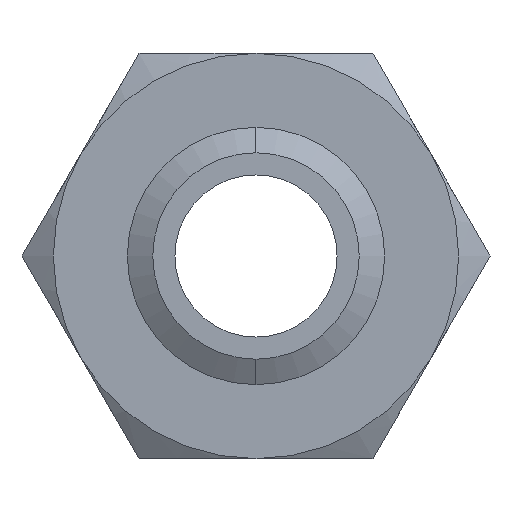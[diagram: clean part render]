
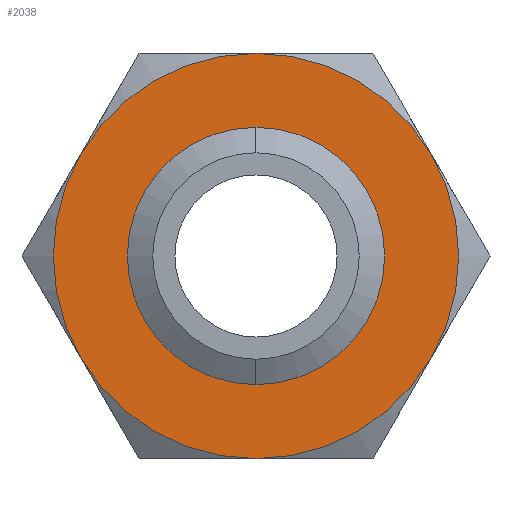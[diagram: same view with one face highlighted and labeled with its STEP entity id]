
A CAD part, front view. The second image highlights one B-rep face of the part: STEP entity #2038.
In plain terms, the highlighted planar face has unit normal (0, -1, 0).
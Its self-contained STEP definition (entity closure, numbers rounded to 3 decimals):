
#2 = EDGE_CURVE ( 'NONE', #2039, #2040, #361, .T. ) ;
#6 = EDGE_CURVE ( 'NONE', #2035, #2039, #344, .T. ) ;
#9 = ORIENTED_EDGE ( 'NONE', *, *, #2, .F. ) ;
#16 = ORIENTED_EDGE ( 'NONE', *, *, #32, .F. ) ;
#32 = EDGE_CURVE ( 'NONE', #1794, #2035, #363, .T. ) ;
#341 = DIRECTION ( 'NONE',  ( 0., 0., 1. ) ) ;
#342 = DIRECTION ( 'NONE',  ( 0., 1., 0. ) ) ;
#343 = AXIS2_PLACEMENT_3D ( 'NONE', #348, #342, #341 ) ;
#344 = CIRCLE ( 'NONE', #343, 25. ) ;
#348 = CARTESIAN_POINT ( 'NONE',  ( 0., 0., 0. ) ) ;
#357 = DIRECTION ( 'NONE',  ( 0., 0., 1. ) ) ;
#358 = DIRECTION ( 'NONE',  ( 0., 1., 0. ) ) ;
#359 = CARTESIAN_POINT ( 'NONE',  ( 0., 0., 0. ) ) ;
#360 = AXIS2_PLACEMENT_3D ( 'NONE', #359, #358, #357 ) ;
#361 = CIRCLE ( 'NONE', #360, 25. ) ;
#362 = CARTESIAN_POINT ( 'NONE',  ( 0., 0., 0. ) ) ;
#363 = CIRCLE ( 'NONE', #417, 25. ) ;
#415 = DIRECTION ( 'NONE',  ( 0., 0., 1. ) ) ;
#416 = DIRECTION ( 'NONE',  ( 0., 1., 0. ) ) ;
#417 = AXIS2_PLACEMENT_3D ( 'NONE', #362, #416, #415 ) ;
#1158 = DIRECTION ( 'NONE',  ( 0., 0., -1. ) ) ;
#1159 = DIRECTION ( 'NONE',  ( 0., -1., 0. ) ) ;
#1160 = CARTESIAN_POINT ( 'NONE',  ( 0., 0., 0. ) ) ;
#1161 = AXIS2_PLACEMENT_3D ( 'NONE', #1160, #1159, #1158 ) ;
#1166 = CIRCLE ( 'NONE', #1161, 12.731 ) ;
#1179 = CARTESIAN_POINT ( 'NONE',  ( 0., 0., -12.731 ) ) ;
#1181 = CARTESIAN_POINT ( 'NONE',  ( 0., 0., 12.731 ) ) ;
#1187 = DIRECTION ( 'NONE',  ( 0., 0., 1. ) ) ;
#1188 = DIRECTION ( 'NONE',  ( 0., 1., 0. ) ) ;
#1189 = CARTESIAN_POINT ( 'NONE',  ( 0., 0., 0. ) ) ;
#1190 = AXIS2_PLACEMENT_3D ( 'NONE', #1189, #1188, #1187 ) ;
#1195 = CIRCLE ( 'NONE', #1190, 25. ) ;
#1231 = CARTESIAN_POINT ( 'NONE',  ( 0., 0., -25. ) ) ;
#1232 = CARTESIAN_POINT ( 'NONE',  ( 21.651, 0., -12.5 ) ) ;
#1233 = DIRECTION ( 'NONE',  ( 0., 0., 1. ) ) ;
#1234 = DIRECTION ( 'NONE',  ( 0., 1., 0. ) ) ;
#1235 = CARTESIAN_POINT ( 'NONE',  ( 0., 0., 0. ) ) ;
#1236 = AXIS2_PLACEMENT_3D ( 'NONE', #1235, #1234, #1233 ) ;
#1237 = CIRCLE ( 'NONE', #1236, 25. ) ;
#1243 = CARTESIAN_POINT ( 'NONE',  ( -21.651, 0., -12.5 ) ) ;
#1349 = DIRECTION ( 'NONE',  ( 0., 0., -1. ) ) ;
#1350 = DIRECTION ( 'NONE',  ( 0., -1., 0. ) ) ;
#1351 = CARTESIAN_POINT ( 'NONE',  ( 0., 0., 0. ) ) ;
#1352 = AXIS2_PLACEMENT_3D ( 'NONE', #1351, #1350, #1349 ) ;
#1353 = CIRCLE ( 'NONE', #1352, 12.731 ) ;
#1401 = DIRECTION ( 'NONE',  ( 0., 0., 1. ) ) ;
#1402 = DIRECTION ( 'NONE',  ( 0., 1., 0. ) ) ;
#1403 = CARTESIAN_POINT ( 'NONE',  ( 0., 0., 0. ) ) ;
#1404 = AXIS2_PLACEMENT_3D ( 'NONE', #1403, #1402, #1401 ) ;
#1405 = CIRCLE ( 'NONE', #1404, 25. ) ;
#1626 = CARTESIAN_POINT ( 'NONE',  ( 21.651, 0., 12.5 ) ) ;
#1627 = DIRECTION ( 'NONE',  ( 0., 0., 1. ) ) ;
#1628 = DIRECTION ( 'NONE',  ( 0., 1., 0. ) ) ;
#1629 = CARTESIAN_POINT ( 'NONE',  ( 14.434, 0., -25. ) ) ;
#1630 = CARTESIAN_POINT ( 'NONE',  ( 0., 0., 25. ) ) ;
#1631 = AXIS2_PLACEMENT_3D ( 'NONE', #1629, #1628, #1627 ) ;
#1632 = PLANE ( 'NONE',  #1631 ) ;
#1633 = FACE_BOUND ( 'NONE', #1791, .T. ) ;
#1634 = FACE_OUTER_BOUND ( 'NONE', #2032, .T. ) ;
#1640 = CARTESIAN_POINT ( 'NONE',  ( -21.651, 0., 12.5 ) ) ;
#1758 = VERTEX_POINT ( 'NONE', #1181 ) ;
#1763 = VERTEX_POINT ( 'NONE', #1179 ) ;
#1768 = EDGE_CURVE ( 'NONE', #1763, #1758, #1166, .T. ) ;
#1787 = EDGE_CURVE ( 'NONE', #2040, #1800, #1195, .T. ) ;
#1789 = ORIENTED_EDGE ( 'NONE', *, *, #1787, .F. ) ;
#1791 = EDGE_LOOP ( 'NONE', ( #2034, #1831 ) ) ;
#1794 = VERTEX_POINT ( 'NONE', #1243 ) ;
#1795 = ORIENTED_EDGE ( 'NONE', *, *, #1883, .F. ) ;
#1799 = EDGE_CURVE ( 'NONE', #1800, #1810, #1237, .T. ) ;
#1800 = VERTEX_POINT ( 'NONE', #1232 ) ;
#1810 = VERTEX_POINT ( 'NONE', #1231 ) ;
#1812 = ORIENTED_EDGE ( 'NONE', *, *, #1799, .F. ) ;
#1831 = ORIENTED_EDGE ( 'NONE', *, *, #1878, .F. ) ;
#1878 = EDGE_CURVE ( 'NONE', #1758, #1763, #1353, .T. ) ;
#1883 = EDGE_CURVE ( 'NONE', #1810, #1794, #1405, .T. ) ;
#2032 = EDGE_LOOP ( 'NONE', ( #9, #2041, #16, #1795, #1812, #1789 ) ) ;
#2034 = ORIENTED_EDGE ( 'NONE', *, *, #1768, .F. ) ;
#2035 = VERTEX_POINT ( 'NONE', #1640 ) ;
#2038 = ADVANCED_FACE ( 'NONE', ( #1634, #1633 ), #1632, .F. ) ;
#2039 = VERTEX_POINT ( 'NONE', #1630 ) ;
#2040 = VERTEX_POINT ( 'NONE', #1626 ) ;
#2041 = ORIENTED_EDGE ( 'NONE', *, *, #6, .F. ) ;
